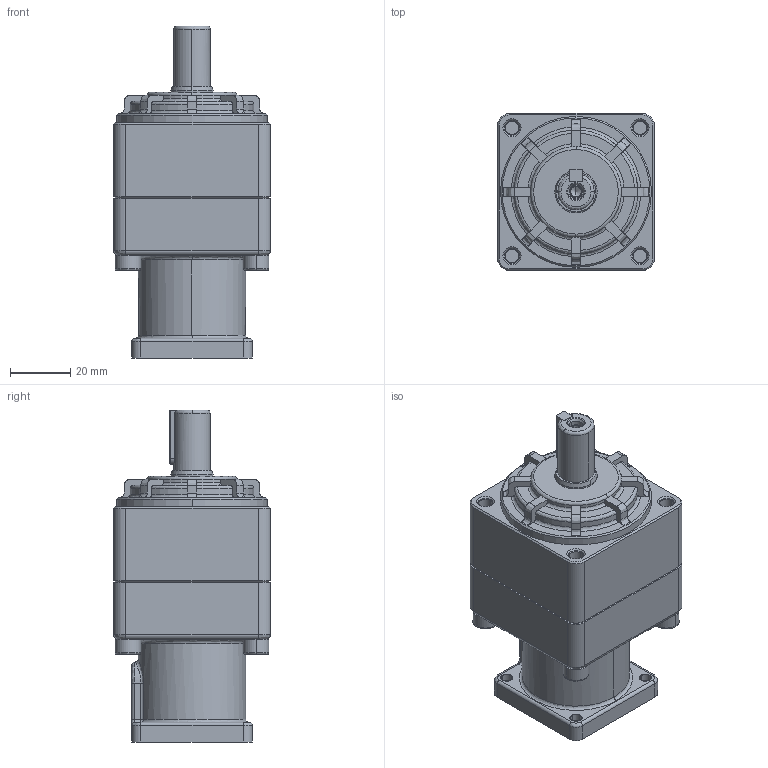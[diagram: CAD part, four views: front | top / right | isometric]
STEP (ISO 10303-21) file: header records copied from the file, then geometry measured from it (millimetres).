
FILE_DESCRIPTION (( 'STEP AP214' ), '1' );
FILE_NAME ('VRSF060-L2-S2-P2 8-30-46-M4.STEP', '2022-02-14T05:06:16', ( 'Admin' ), ( '' ), 'SwSTEP 2.0', 'SolidWorks 2018', '' );
FILE_SCHEMA (( 'AUTOMOTIVE_DESIGN' ));
Length unit declared in the file: millimetre
Products named in the file (12): VRSF060-605-003_2; VRSF060-604_2; M3-10; VRSF060--604; VRSF060-605-003; VRSF060-L2-S2-P2 8-30-46-M4; VRSF060-616; VRSF060-609-003_2; C4X4X18; VRSF060-616_2; VRSF060-609-003; M5-30
Assembly tree (14 placements, depth 2):
  VRSF060-L2-S2-P2 8-30-46-M4
    VRSF060--604
    VRSF060-604_2
    VRSF060-616_2
    VRSF060-616
    VRSF060-605-003_2
    VRSF060-605-003
    VRSF060-609-003
    VRSF060-609-003_2
    M3-10
    M5-30  x4
    C4X4X18
Bounding box: 52 x 52 x 110 mm (x, y, z)
Volume: 163161.4 mm3; surface area: 41692.7 mm2
Topology: 10 solids, 24 shells, 1677 faces, 3789 edges, 2148 vertices
Faces by surface type: cone 853, cylinder 564, plane 180, bspline 80
Entity records: 28249 total; most frequent: CARTESIAN_POINT 8602, DIRECTION 4237, ORIENTED_EDGE 3876, EDGE_CURVE 1968, AXIS2_PLACEMENT_3D 1686, VERTEX_POINT 1156, EDGE_LOOP 908, CIRCLE 890
